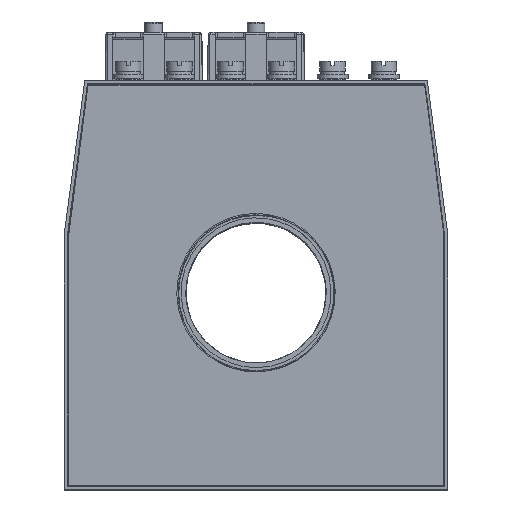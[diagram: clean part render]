
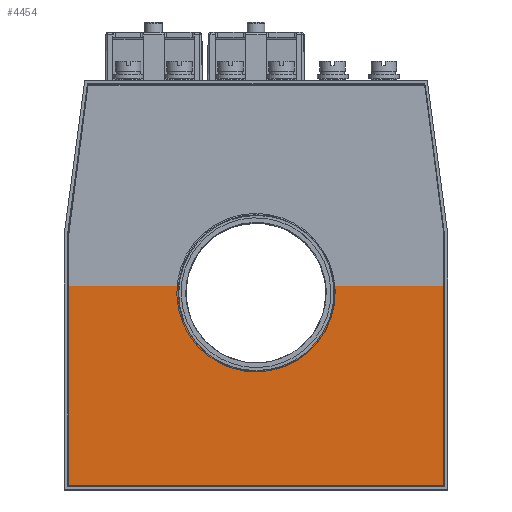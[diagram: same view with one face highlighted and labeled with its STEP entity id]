
A CAD part, top view. The second image highlights one B-rep face of the part: STEP entity #4454.
In plain terms, the highlighted planar face has unit normal (0, 0, 1).
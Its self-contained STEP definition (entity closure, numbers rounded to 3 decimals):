
#4454=ADVANCED_FACE('',(#7915,#7917),#7919,.T.);
#7915=FACE_BOUND('',#7916,.T.);
#7916=EDGE_LOOP('',(#9340,#9341,#9342,#9343,#9344,#9345));
#7917=FACE_BOUND('',#7918,.T.);
#7918=EDGE_LOOP('',(#9346));
#7919=PLANE('',#7920);
#7920=AXIS2_PLACEMENT_3D('',#7921,#7922,#7923);
#7921=CARTESIAN_POINT('',(0.,0.,5.));
#7922=DIRECTION('',(0.,0.,1.));
#7923=DIRECTION('',(1.,0.,0.));
#9340=ORIENTED_EDGE('',*,*,#10059,.T.);
#9341=ORIENTED_EDGE('',*,*,#10060,.T.);
#9342=ORIENTED_EDGE('',*,*,#10061,.T.);
#9343=ORIENTED_EDGE('',*,*,#10062,.T.);
#9344=ORIENTED_EDGE('',*,*,#10063,.T.);
#9345=ORIENTED_EDGE('',*,*,#10064,.T.);
#9346=ORIENTED_EDGE('',*,*,#10065,.T.);
#10059=EDGE_CURVE('',#11243,#11244,#11245,.T.);
#10060=EDGE_CURVE('',#11244,#11246,#11247,.T.);
#10061=EDGE_CURVE('',#11246,#11248,#11249,.T.);
#10062=EDGE_CURVE('',#11248,#11250,#11251,.T.);
#10063=EDGE_CURVE('',#11250,#11252,#11253,.T.);
#10064=EDGE_CURVE('',#11252,#11243,#11254,.T.);
#10065=EDGE_CURVE('',#11255,#11255,#11256,.F.);
#11243=VERTEX_POINT('',#14280);
#11244=VERTEX_POINT('',#14281);
#11245=LINE('',#14282,#14283);
#11246=VERTEX_POINT('',#14285);
#11247=LINE('',#14286,#14287);
#11248=VERTEX_POINT('',#14289);
#11249=LINE('',#14290,#14291);
#11250=VERTEX_POINT('',#14293);
#11251=LINE('',#14294,#14295);
#11252=VERTEX_POINT('',#14297);
#11253=LINE('',#14298,#14299);
#11254=LINE('',#14301,#14302);
#11255=VERTEX_POINT('',#14304);
#11256=CIRCLE('',#14305,30.5);
#14280=CARTESIAN_POINT('',(-73.5,19.815,5.));
#14281=CARTESIAN_POINT('',(-73.5,-78.5,5.));
#14282=CARTESIAN_POINT('',(-73.5,19.815,5.));
#14283=VECTOR('',#14284,1.);
#14284=DIRECTION('',(0.,-1.,0.));
#14285=CARTESIAN_POINT('',(73.5,-78.5,5.));
#14286=CARTESIAN_POINT('',(-73.5,-78.5,5.));
#14287=VECTOR('',#14288,1.);
#14288=DIRECTION('',(1.,0.,0.));
#14289=CARTESIAN_POINT('',(73.5,19.815,5.));
#14290=CARTESIAN_POINT('',(73.5,-78.5,5.));
#14291=VECTOR('',#14292,1.);
#14292=DIRECTION('',(0.,1.,0.));
#14293=CARTESIAN_POINT('',(66.,78.5,5.));
#14294=CARTESIAN_POINT('',(73.5,19.815,5.));
#14295=VECTOR('',#14296,1.);
#14296=DIRECTION('',(-0.127,0.992,0.));
#14297=CARTESIAN_POINT('',(-66.,78.5,5.));
#14298=CARTESIAN_POINT('',(66.,78.5,5.));
#14299=VECTOR('',#14300,1.);
#14300=DIRECTION('',(-1.,0.,0.));
#14301=CARTESIAN_POINT('',(-66.,78.5,5.));
#14302=VECTOR('',#14303,1.);
#14303=DIRECTION('',(-0.127,-0.992,0.));
#14304=CARTESIAN_POINT('',(30.5,-3.,5.));
#14305=AXIS2_PLACEMENT_3D('',#14306,#14307,#14308);
#14306=CARTESIAN_POINT('',(0.,-3.,5.));
#14307=DIRECTION('',(0.,0.,1.));
#14308=DIRECTION('',(1.,0.,0.));
